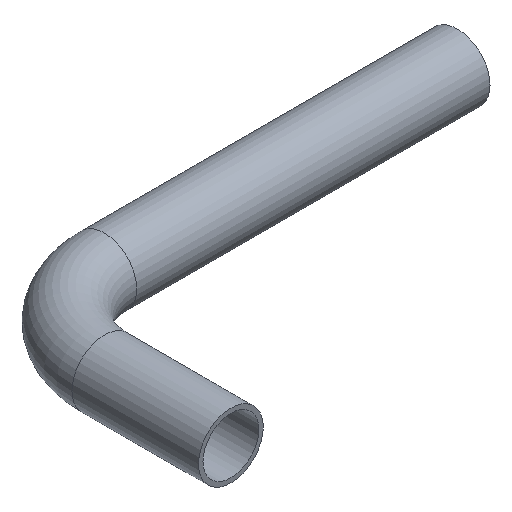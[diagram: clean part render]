
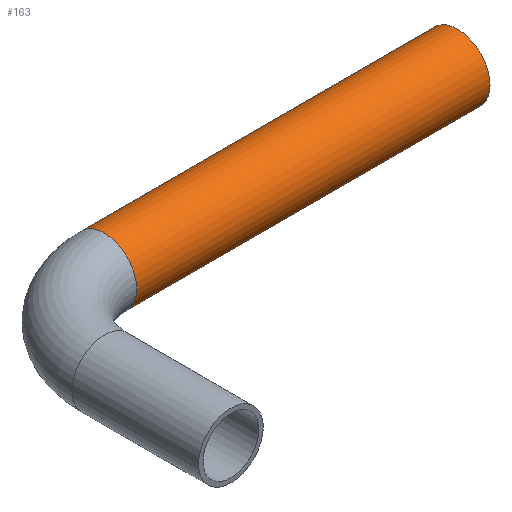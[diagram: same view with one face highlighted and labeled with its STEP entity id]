
A CAD part, isometric view. The second image highlights one B-rep face of the part: STEP entity #163.
In plain terms, the highlighted cylindrical face has radius 11 mm (diameter 22 mm), a full revolution.
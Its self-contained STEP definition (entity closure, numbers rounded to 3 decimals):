
#136=CARTESIAN_POINT('',(0.,30.0,0.0));
#137=DIRECTION('',(1.0,0.,0.0));
#138=DIRECTION('',(0.0,-1.0,0.0));
#139=AXIS2_PLACEMENT_3D('',#136,#137,#138);
#140=CYLINDRICAL_SURFACE('',#139,11.0);
#141=CARTESIAN_POINT('',(120.0,41.,0.));
#142=VERTEX_POINT('',#141);
#143=CARTESIAN_POINT('',(120.0,30.,0.0));
#144=DIRECTION('',(-1.0,0.0,0.0));
#145=DIRECTION('',(0.0,-1.0,0.0));
#146=AXIS2_PLACEMENT_3D('',#143,#144,#145);
#147=CIRCLE('',#146,11.0);
#148=EDGE_CURVE('',#142,#142,#147,.T.);
#149=ORIENTED_EDGE('',*,*,#148,.T.);
#150=EDGE_LOOP('',(#149));
#151=FACE_OUTER_BOUND('',#150,.T.);
#152=CARTESIAN_POINT('',(0.,41.0,0.));
#153=VERTEX_POINT('',#152);
#154=CARTESIAN_POINT('',(0.,30.0,0.0));
#155=DIRECTION('',(-1.0,0.0,0.0));
#156=DIRECTION('',(0.0,-1.0,0.0));
#157=AXIS2_PLACEMENT_3D('',#154,#155,#156);
#158=CIRCLE('',#157,11.0);
#159=EDGE_CURVE('',#153,#153,#158,.T.);
#160=ORIENTED_EDGE('',*,*,#159,.F.);
#161=EDGE_LOOP('',(#160));
#162=FACE_BOUND('',#161,.T.);
#163=ADVANCED_FACE('',(#151,#162),#140,.T.);
